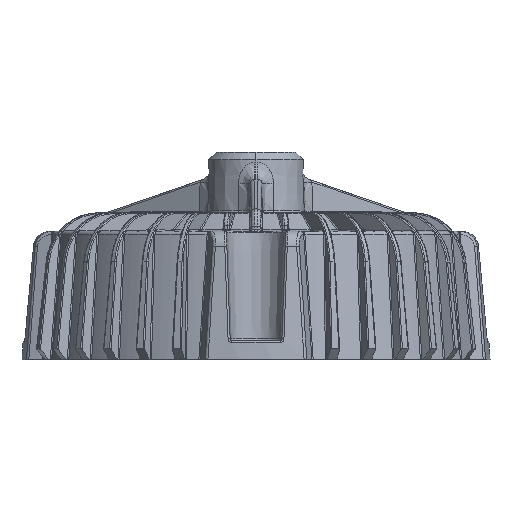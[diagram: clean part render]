
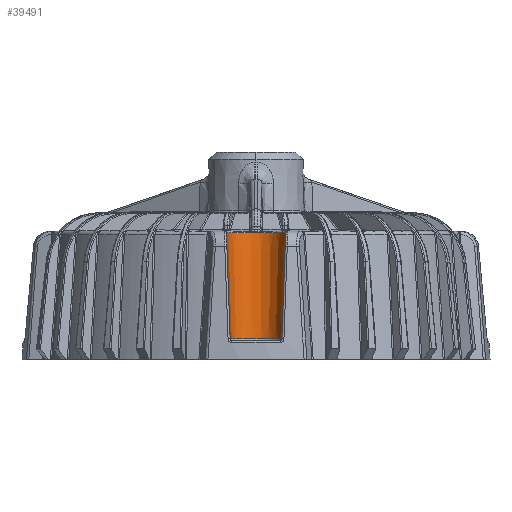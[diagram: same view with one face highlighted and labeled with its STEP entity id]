
A CAD part, top view. The second image highlights one B-rep face of the part: STEP entity #39491.
In plain terms, the highlighted conical face has half-angle 2 degrees and reference radius 7.483 mm.
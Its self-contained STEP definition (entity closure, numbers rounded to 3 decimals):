
#7369=CARTESIAN_POINT('',(106.81,40.026,-26.907));
#7435=DIRECTION('',(-0.025,-0.999,0.025));
#7436=VECTOR('',#7435,28.531);
#7437=CARTESIAN_POINT('',(118.093,40.026,-38.19));
#7438=LINE('',#7437,#7436);
#7439=DIRECTION('',(-0.025,0.999,0.025));
#7440=VECTOR('',#7439,28.531);
#7441=CARTESIAN_POINT('',(107.514,11.513,-27.611));
#7442=LINE('',#7441,#7440);
#7443=CARTESIAN_POINT('',(106.81,40.026,-26.907));
#7444=CARTESIAN_POINT('',(106.736,40.053,-26.979));
#7445=CARTESIAN_POINT('',(106.592,40.099,-27.126));
#7446=CARTESIAN_POINT('',(106.384,40.139,-27.358));
#7447=CARTESIAN_POINT('',(106.254,40.148,-27.516));
#7448=CARTESIAN_POINT('',(106.191,40.148,-27.595));
#7450=CARTESIAN_POINT('',(117.405,40.148,-38.809));
#7451=CARTESIAN_POINT('',(117.485,40.148,-38.746));
#7452=CARTESIAN_POINT('',(117.642,40.139,-38.616));
#7453=CARTESIAN_POINT('',(117.874,40.099,-38.408));
#7454=CARTESIAN_POINT('',(118.021,40.053,-38.264));
#7455=CARTESIAN_POINT('',(118.093,40.026,-38.19));
#7538=CARTESIAN_POINT('',(112.452,11.513,-32.548));
#7539=DIRECTION('',(0.,-1.,0.));
#7540=DIRECTION('',(-0.707,0.,0.707));
#7541=AXIS2_PLACEMENT_3D('',#7538,#7539,#7540);
#7579=CARTESIAN_POINT('',(112.452,40.148,-32.548));
#7580=DIRECTION('',(0.,1.,0.));
#7581=DIRECTION('',(0.62,0.,-0.784));
#7582=AXIS2_PLACEMENT_3D('',#7579,#7580,#7581);
#7584=CARTESIAN_POINT('',(112.452,40.148,-32.548));
#7585=DIRECTION('',(0.,1.,0.));
#7586=DIRECTION('',(0.,0.,-1.));
#7587=AXIS2_PLACEMENT_3D('',#7584,#7585,#7586);
#29059=VERTEX_POINT('',#7369);
#29060=CARTESIAN_POINT('',(106.191,40.148,
-27.595));
#29061=VERTEX_POINT('',#29060);
#29068=CARTESIAN_POINT('',(107.514,11.513,
-27.611));
#29069=VERTEX_POINT('',#29068);
#29072=CARTESIAN_POINT('',(118.093,40.026,
-38.19));
#29073=CARTESIAN_POINT('',(117.389,11.513,
-37.486));
#29074=VERTEX_POINT('',#29072);
#29075=VERTEX_POINT('',#29073);
#29076=CARTESIAN_POINT('',(112.452,40.148,
-40.532));
#29077=VERTEX_POINT('',#29076);
#29078=CARTESIAN_POINT('',(117.405,40.148,-38.809));
#29079=VERTEX_POINT('',#29078);
#39472=CARTESIAN_POINT('',(112.452,25.83,
-32.548));
#39473=DIRECTION('',(0.,1.,0.));
#39474=DIRECTION('',(-0.707,0.,0.707));
#39475=AXIS2_PLACEMENT_3D('',#39472,#39473,#39474);
#39476=CONICAL_SURFACE('',#39475,7.483,2.);
#39478=ORIENTED_EDGE('',*,*,#39477,.T.);
#39480=ORIENTED_EDGE('',*,*,#39479,.F.);
#39481=ORIENTED_EDGE('',*,*,#39465,.T.);
#39482=ORIENTED_EDGE('',*,*,#39362,.T.);
#39484=ORIENTED_EDGE('',*,*,#39483,.F.);
#39486=ORIENTED_EDGE('',*,*,#39485,.F.);
#39488=ORIENTED_EDGE('',*,*,#39487,.T.);
#39489=EDGE_LOOP('',(#39478,#39480,#39481,#39482,#39484,#39486,#39488));
#39490=FACE_OUTER_BOUND('',#39489,.F.);
#7449=B_SPLINE_CURVE_WITH_KNOTS('',3,(#7443,#7444,#7445,#7446,#7447,#7448),
.UNSPECIFIED.,.F.,.F.,(4,1,1,4),(0.,0.333,0.667,1.),
.UNSPECIFIED.);
#7456=B_SPLINE_CURVE_WITH_KNOTS('',3,(#7450,#7451,#7452,#7453,#7454,#7455),
.UNSPECIFIED.,.F.,.F.,(4,1,1,4),(0.,0.333,0.667,1.),
.UNSPECIFIED.);
#7542=CIRCLE('',#7541,6.983);
#7583=CIRCLE('',#7582,7.983);
#7588=CIRCLE('',#7587,7.983);
#39362=EDGE_CURVE('',#29059,#29061,#7449,.T.);
#39465=EDGE_CURVE('',#29069,#29059,#7442,.T.);
#39477=EDGE_CURVE('',#29074,#29075,#7438,.T.);
#39479=EDGE_CURVE('',#29069,#29075,#7542,.T.);
#39483=EDGE_CURVE('',#29077,#29061,#7588,.T.);
#39485=EDGE_CURVE('',#29079,#29077,#7583,.T.);
#39487=EDGE_CURVE('',#29079,#29074,#7456,.T.);
#39491=ADVANCED_FACE('',(#39490),#39476,.F.);
